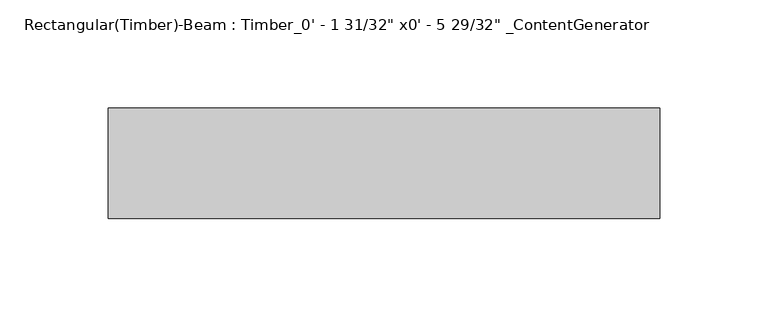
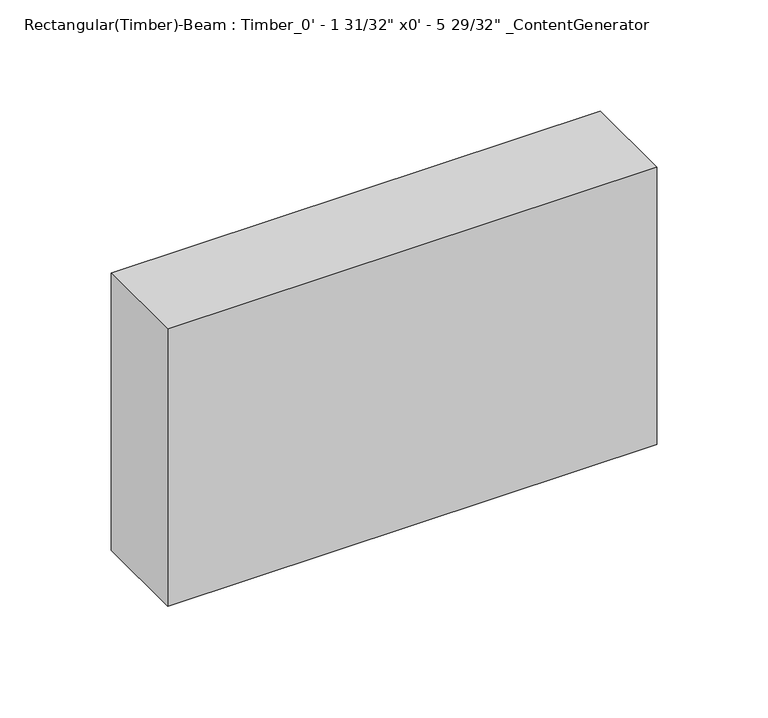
"""IFC4 building model written with IfcOpenShell, lengths in millimetres: beam geometry."""

from ifc_helpers import new_model, si_unit, frame, origin, place, context, project, spatial, polyline, outline, extrude, source, transform, mapped, element, save


def beam_19b97b81(model_context):
    return source(origin(), model_context, "Body", "SweptSolid", [
        extrude(outline(polyline([(127.0, 25.4), (127.0, -25.4), (-127.0, -25.4), (-127.0, 25.4), (127.0, 25.4)])), frame((0.0, 0.0, -76.2), z_axis=(0.0, 0.0, 1.0), x_axis=(1.0, 0.0, 0.0)), (0.0, 0.0, 1.0), 152.4),
    ])


if __name__ == "__main__":
    model = new_model("IFC4")
    model_context = context("Model", 3, world=origin())
    ifc_project = project(units=[si_unit("LENGTHUNIT", "METRE", prefix="MILLI")], contexts=[model_context])
    site = spatial("IfcSite", under=ifc_project)
    building = spatial("IfcBuilding", under=site)
    placement = place(None, origin())
    beam_shape = beam_19b97b81(model_context)
    element("IfcBeam", 1, ObjectType="Rectangular(Timber)-Beam : Timber_0' - 1 31/32\" x0' - 5 29/32\" _ContentGenerator", at=placement, inside=building, context=model_context, shape_type="MappedRepresentation", body=[
        mapped(beam_shape, transform((0.0, 0.0, 0.0), x_axis=(1.0, 0.0, 0.0), y_axis=(0.0, 1.0, 0.0), z_axis=(0.0, 0.0, 1.0))),
    ])
    save(model, "model.ifc")
